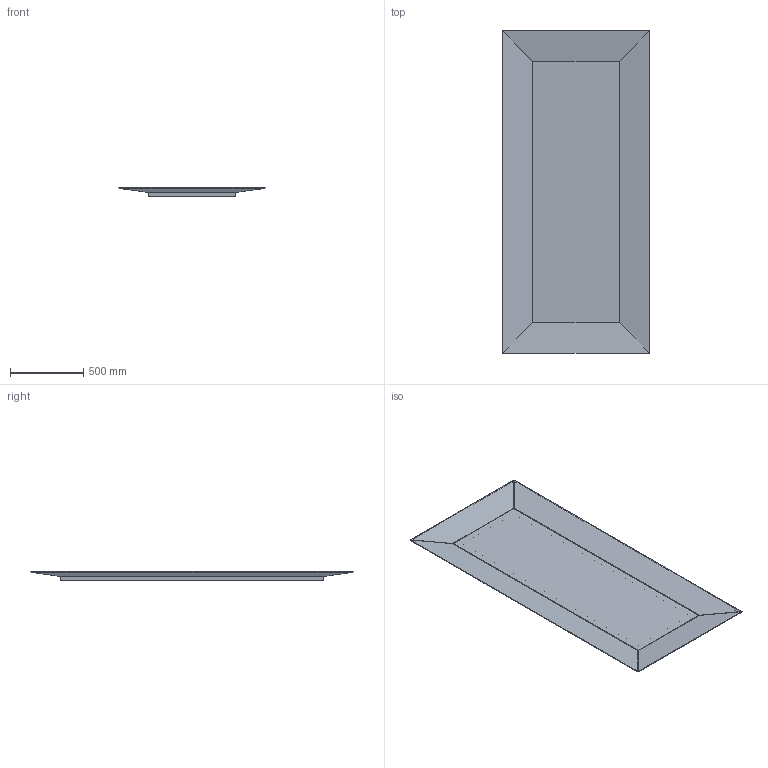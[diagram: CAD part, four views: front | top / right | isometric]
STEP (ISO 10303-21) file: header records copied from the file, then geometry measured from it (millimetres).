
FILE_DESCRIPTION((''),'2;1');
FILE_NAME('C:\AutodeskVault\AreaLavoro\Progetti\SoVeT Italia\3. Specchi_Mirrors\Denver\Web file\Denver Web\P5057 Horiz.stp','2012-07-23T14:39:33',('Gianluca'),('So.Ve.T. s.r.l.'),'Autodesk Inventor 2013','Autodesk Inventor 2013','IL PROGETTO E'' DI ESCLUSIVA PROPRIETA'' DELLA SO.VE.T. srl. E'' VIETATA OGNI RIPRODUZIONE TOTALE O PARZIALE E QUALSIASI UTILIZZO NON AUTORIZZATO. ');
FILE_SCHEMA(('AUTOMOTIVE_DESIGN { 1 0 10303 214 1 1 1 1 }'));
Length unit declared in the file: millimetre
Products named in the file (1): P5057 Contorno semplificato Orizz
Bounding box: 1006.01 x 2206.01 x 67.41 mm (x, y, z)
Volume: 21454631.3 mm3; surface area: 9329364.3 mm2
Topology: 2 solids, 2 shells, 338 faces, 820 edges, 468 vertices
Faces by surface type: plane 202, cylinder 96, torus 16, bspline 16, sphere 8
Entity records: 10330 total; most frequent: CARTESIAN_POINT 2171, ORIENTED_EDGE 1624, DIRECTION 1582, EDGE_CURVE 812, VECTOR 600, LINE 600, AXIS2_PLACEMENT_3D 491, VERTEX_POINT 468
